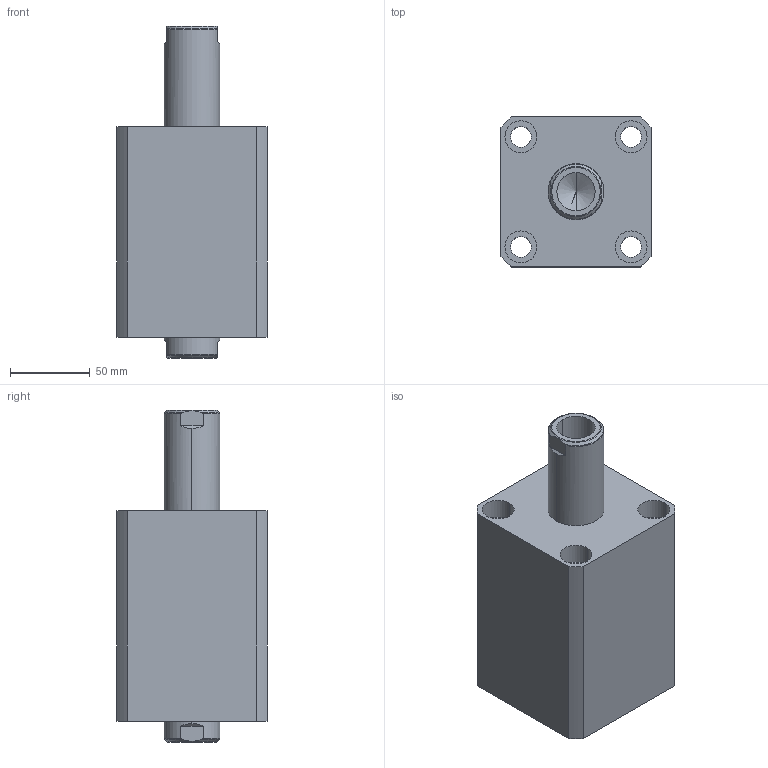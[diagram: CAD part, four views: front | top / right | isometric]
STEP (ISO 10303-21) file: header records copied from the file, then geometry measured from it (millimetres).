
FILE_DESCRIPTION (( 'STEP AP214' ), '1' );
FILE_NAME ('chtb-sw63x50n_asm.STEP', '2018-05-12T02:14:28', ( 'Windows' ), ( 'Microsoft' ), 'SwSTEP 2.0', 'SolidWorks 2015', '' );
FILE_SCHEMA (( 'AUTOMOTIVE_DESIGN' ));
Length unit declared in the file: millimetre
Products named in the file (4): CHTB-SW63X50NHSG; CHTB-SW63X50NBT; CHTB-63QG; chtb-sw63x50n_asm
Assembly tree (3 placements, depth 2):
  chtb-sw63x50n_asm
    CHTB-63QG
    CHTB-SW63X50NBT
    CHTB-SW63X50NHSG
Bounding box: 94 x 94 x 208 mm (x, y, z)
Volume: 1005953.2 mm3; surface area: 166157.6 mm2
Topology: 3 solids, 3 shells, 184 faces, 515 edges, 349 vertices
Faces by surface type: cylinder 106, plane 38, cone 16, bspline 12, torus 12
Entity records: 18385 total; most frequent: CARTESIAN_POINT 13775, ORIENTED_EDGE 1014, DIRECTION 814, EDGE_CURVE 507, VERTEX_POINT 349, AXIS2_PLACEMENT_3D 331, EDGE_LOOP 220, ADVANCED_FACE 184
